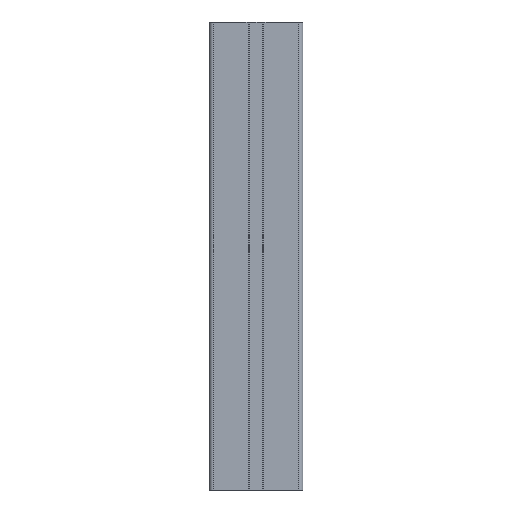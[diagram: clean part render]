
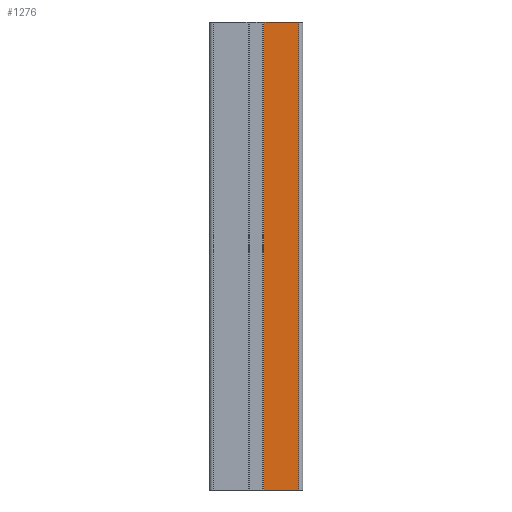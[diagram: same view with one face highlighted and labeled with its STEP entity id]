
A CAD part, front view. The second image highlights one B-rep face of the part: STEP entity #1276.
In plain terms, the highlighted planar face has unit normal (0, -1, 0).
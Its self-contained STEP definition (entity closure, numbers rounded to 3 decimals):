
#109 = DIRECTION ( 'NONE',  ( 0., 0., -1. ) ) ;
#257 = VERTEX_POINT ( 'NONE', #3131 ) ;
#326 = DIRECTION ( 'NONE',  ( 0., 1., 0. ) ) ;
#352 = DIRECTION ( 'NONE',  ( 1., 0., 0. ) ) ;
#614 = CARTESIAN_POINT ( 'NONE',  ( 5.1, -20., 150. ) ) ;
#790 = ORIENTED_EDGE ( 'NONE', *, *, #4773, .F. ) ;
#836 = CARTESIAN_POINT ( 'NONE',  ( 5.1, -20., 150. ) ) ;
#861 = CARTESIAN_POINT ( 'NONE',  ( 5.1, -20., 150. ) ) ;
#915 = CARTESIAN_POINT ( 'NONE',  ( 5.1, -20., 150. ) ) ;
#946 = DIRECTION ( 'NONE',  ( 1., 0., 0. ) ) ;
#971 = AXIS2_PLACEMENT_3D ( 'NONE', #836, #326, #4834 ) ;
#980 = DIRECTION ( 'NONE',  ( 0., 0., -1. ) ) ;
#1116 = LINE ( 'NONE', #614, #4827 ) ;
#1276 = ADVANCED_FACE ( 'NONE', ( #4698 ), #1341, .F. ) ;
#1341 = PLANE ( 'NONE',  #971 ) ;
#1357 = EDGE_CURVE ( 'NONE', #4909, #257, #1116, .T. ) ;
#1368 = LINE ( 'NONE', #861, #2673 ) ;
#1453 = CARTESIAN_POINT ( 'NONE',  ( 5.1, -20., -150. ) ) ;
#1483 = CARTESIAN_POINT ( 'NONE',  ( 27.5, -20., 150. ) ) ;
#1743 = VERTEX_POINT ( 'NONE', #3456 ) ;
#1764 = EDGE_LOOP ( 'NONE', ( #4725, #4225, #790, #4317 ) ) ;
#1968 = LINE ( 'NONE', #1453, #4024 ) ;
#1995 = LINE ( 'NONE', #1483, #4523 ) ;
#2105 = EDGE_CURVE ( 'NONE', #3001, #1743, #1995, .T. ) ;
#2673 = VECTOR ( 'NONE', #352, 1000. ) ;
#3001 = VERTEX_POINT ( 'NONE', #3813 ) ;
#3131 = CARTESIAN_POINT ( 'NONE',  ( 5.1, -20., -150. ) ) ;
#3456 = CARTESIAN_POINT ( 'NONE',  ( 27.5, -20., -150. ) ) ;
#3813 = CARTESIAN_POINT ( 'NONE',  ( 27.5, -20., 150. ) ) ;
#4024 = VECTOR ( 'NONE', #946, 1000. ) ;
#4225 = ORIENTED_EDGE ( 'NONE', *, *, #2105, .F. ) ;
#4317 = ORIENTED_EDGE ( 'NONE', *, *, #1357, .T. ) ;
#4523 = VECTOR ( 'NONE', #980, 1000. ) ;
#4698 = FACE_OUTER_BOUND ( 'NONE', #1764, .T. ) ;
#4725 = ORIENTED_EDGE ( 'NONE', *, *, #5002, .T. ) ;
#4773 = EDGE_CURVE ( 'NONE', #4909, #3001, #1368, .T. ) ;
#4827 = VECTOR ( 'NONE', #109, 1000. ) ;
#4834 = DIRECTION ( 'NONE',  ( 0., 0., 1. ) ) ;
#4909 = VERTEX_POINT ( 'NONE', #915 ) ;
#5002 = EDGE_CURVE ( 'NONE', #257, #1743, #1968, .T. ) ;
